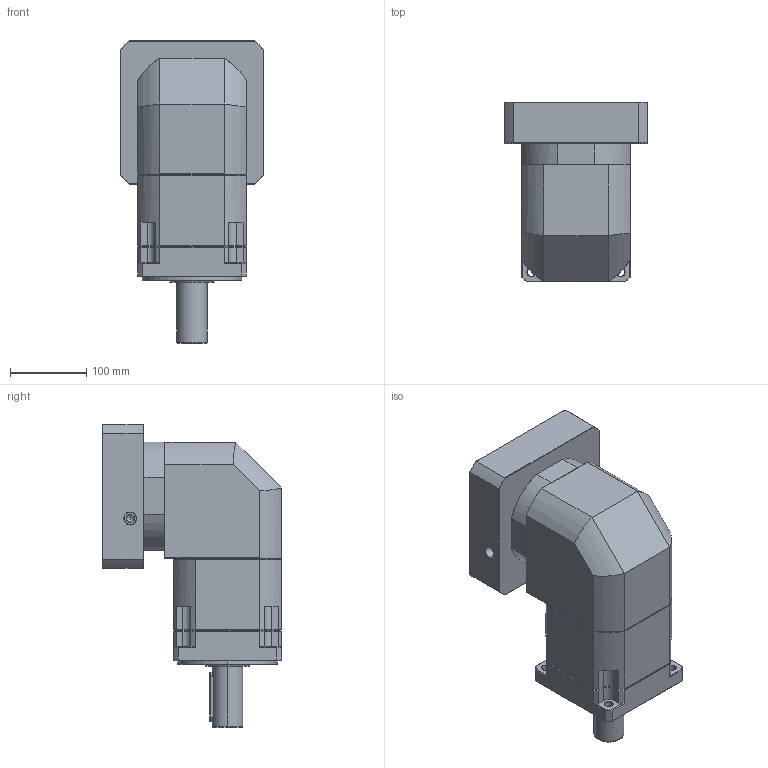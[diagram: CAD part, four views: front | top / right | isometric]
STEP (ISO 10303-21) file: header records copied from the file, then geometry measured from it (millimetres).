
FILE_DESCRIPTION (( 'STEP AP214' ), '1' );
FILE_NAME ('ZBR142A-D40-L2-P2-38-180-215-M12.step', '2023-09-02T07:13:04', ( '' ), ( '' ), 'SwSTEP 2.0', 'SolidWorks 2016', '' );
FILE_SCHEMA (( 'AUTOMOTIVE_DESIGN' ));
Length unit declared in the file: millimetre
Products named in the file (1): ZBR142A-D40-L2-P2-38-180-215-M12
Bounding box: 188 x 235 x 396.7 mm (x, y, z)
Volume: 6892215.3 mm3; surface area: 460469.7 mm2
Topology: 6 solids, 6 shells, 2290 faces, 6015 edges, 3832 vertices
Faces by surface type: plane 1120, cylinder 414, bspline 410, cone 324, torus 22
Entity records: 128145 total; most frequent: CARTESIAN_POINT 49889, ORIENTED_EDGE 11970, DIRECTION 9428, EDGE_CURVE 5985, LINE 3890, VECTOR 3890, VERTEX_POINT 3832, AXIS2_PLACEMENT_3D 2769
